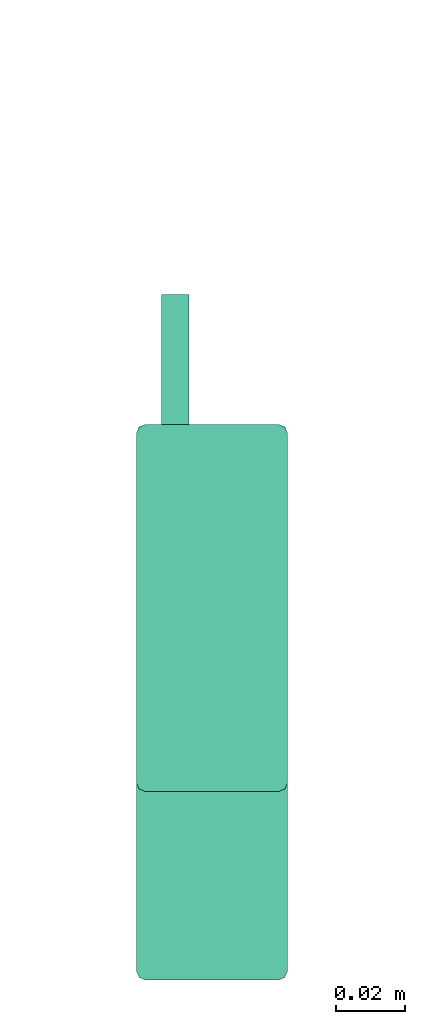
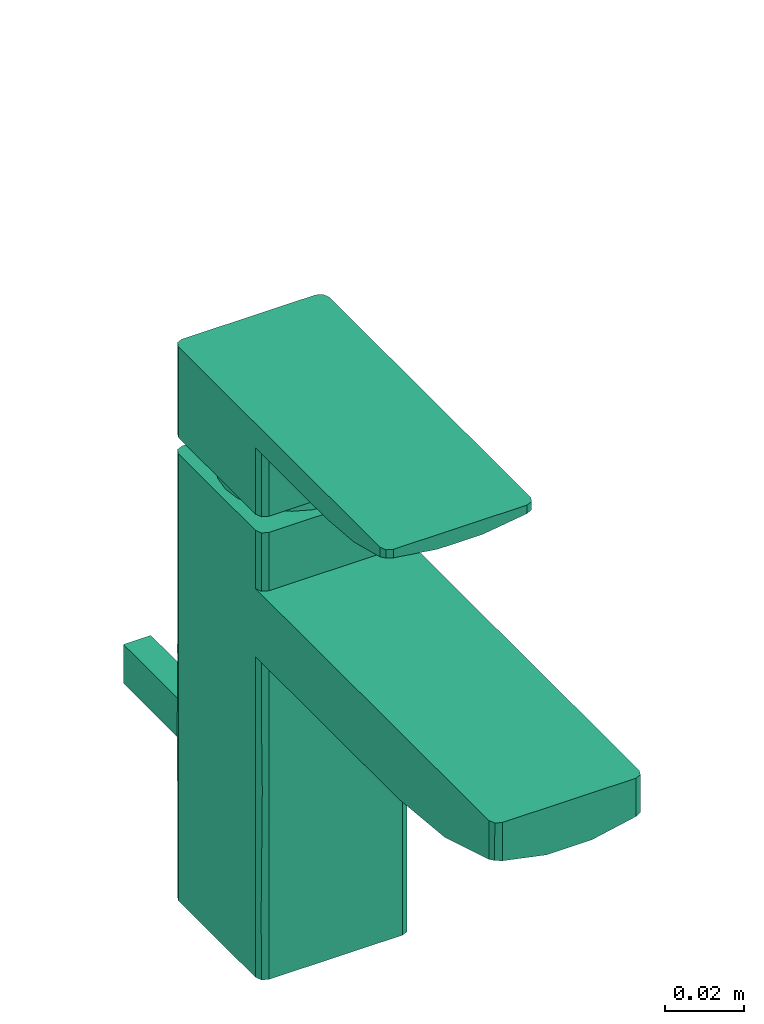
# One storey, part 2 of 2: 1 flow terminal.
"""IFC2X3 building model written with IfcOpenShell, lengths in millimetres."""

import ifcopenshell
import ifcopenshell.guid

model = None  # the IFC model being written
_history = None  # IfcOwnerHistory: only IFC2X3 demands one
_inside = {}  # id of a spatial element -> (the spatial element, [elements in it])
_under = {}  # id of a project, library or spatial element -> (it, [spatial elements below it])
_declared = {}  # id of a project -> (the project, [libraries it declares])
_typed = {}  # id of a type object -> (the type object, [elements of that type])
_made_of = {}  # id of a material, layer set ... -> (it, [elements and type objects made of it])


def new_model(schema):
    """Start an empty IFC model of exactly this schema.

    Asked for "IFC4X3", IfcOpenShell would pick the latest addendum, in which some entities
    have other attributes; the version numbers below select the first issue.
    IFC2X3 requires an IfcOwnerHistory on every rooted entity: one is made here for all.
    """
    global model, _history
    if schema == "IFC4X3":
        model = ifcopenshell.file(schema_version=(4, 3, 0, 0))
    else:
        model = ifcopenshell.file(schema=schema)
    _inside.clear()
    _under.clear()
    _declared.clear()
    _typed.clear()
    _made_of.clear()
    _history = None
    if model.schema == "IFC2X3":
        org = make("IfcOrganization", Name="unknown")
        user = make(
            "IfcPersonAndOrganization",
            ThePerson=make("IfcPerson", FamilyName="unknown"),
            TheOrganization=org,
        )
        app = make(
            "IfcApplication",
            ApplicationDeveloper=org,
            Version="unknown",
            ApplicationFullName="unknown",
            ApplicationIdentifier="unknown",
        )
        _history = make(
            "IfcOwnerHistory",
            OwningUser=user,
            OwningApplication=app,
            ChangeAction="ADDED",
            CreationDate=0,
        )
    return model


def make(cls, **values):
    """One entity of the class cls with the attributes given. An attribute that is None is left unset."""
    return model.create_entity(
        cls, **{name: value for name, value in values.items() if value is not None}
    )


def entity(cls, *values):
    """Any entity or typed value of the class cls, its attributes in the order of the schema. None: left unset."""
    e = model.create_entity(cls)
    for i, value in enumerate(values):
        if value is not None:
            e[i] = value
    return e


def rooted(cls, **values):
    """An entity with a GlobalId (a new one), such as an element, a storey or a relation."""
    return make(cls, GlobalId=ifcopenshell.guid.new(), OwnerHistory=_history, **values)


def si_unit(unit_type, name, prefix=None):
    """IfcSIUnit, for example si_unit("LENGTHUNIT", "METRE", prefix="MILLI")."""
    return make("IfcSIUnit", UnitType=unit_type, Prefix=prefix, Name=name)


def converted_unit(unit_type, name, factor, base, dimensions=None, offset=None):
    """IfcConversionBasedUnit, such as the inch: factor (a typed value) times the base unit."""
    return make(
        "IfcConversionBasedUnit"
        if offset is None
        else "IfcConversionBasedUnitWithOffset",
        ConversionOffset=offset,
        Dimensions=None
        if dimensions is None
        else entity("IfcDimensionalExponents", *dimensions),
        UnitType=unit_type,
        Name=name,
        ConversionFactor=make(
            "IfcMeasureWithUnit", ValueComponent=factor, UnitComponent=base
        ),
    )


def derived_unit(unit_type, elements):
    """IfcDerivedUnit: a product of units, each with its exponent."""
    return make(
        "IfcDerivedUnit",
        Elements=[
            make("IfcDerivedUnitElement", Unit=unit, Exponent=power)
            for unit, power in elements
        ],
        UnitType=unit_type,
    )


def assignment(units):
    """IfcUnitAssignment: the units of a project."""
    return None if units is None else make("IfcUnitAssignment", Units=units)


def point(xyz):
    """IfcCartesianPoint."""
    return None if xyz is None else make("IfcCartesianPoint", Coordinates=xyz)


def direction(xyz):
    """IfcDirection."""
    return None if xyz is None else make("IfcDirection", DirectionRatios=xyz)


def frame(location, z_axis=None, x_axis=None):
    """IfcAxis2Placement3D, a coordinate frame: its origin and axes. An axis left out is left unset."""
    return make(
        "IfcAxis2Placement3D",
        Location=point(location),
        Axis=direction(z_axis),
        RefDirection=direction(x_axis),
    )


def origin():
    """The frame at (0, 0, 0) with its axes left unset."""
    return frame((0.0, 0.0, 0.0))


def place(relative_to, where):
    """IfcLocalPlacement: puts the frame where relative to a parent placement (None: the world)."""
    return make(
        "IfcLocalPlacement", PlacementRelTo=relative_to, RelativePlacement=where
    )


def context(
    kind, dimensions, precision=None, world=None, true_north=None, identifier=None
):
    """IfcGeometricRepresentationContext, for example the 3D "Model" context."""
    return make(
        "IfcGeometricRepresentationContext",
        ContextIdentifier=identifier,
        ContextType=kind,
        CoordinateSpaceDimension=dimensions,
        Precision=precision,
        WorldCoordinateSystem=world,
        TrueNorth=true_north,
    )


def subcontext(parent, identifier, kind, view, scale=None):
    """IfcGeometricRepresentationSubContext, for example "Body" below "Model"."""
    return make(
        "IfcGeometricRepresentationSubContext",
        ContextIdentifier=identifier,
        ContextType=kind,
        ParentContext=parent,
        TargetScale=scale,
        TargetView=view,
    )


def project(units=None, contexts=None):
    """IfcProject with its units and contexts."""
    return rooted(
        "IfcProject",
        Name="project",
        RepresentationContexts=contexts,
        UnitsInContext=assignment(units),
    )


def spatial(cls, under=None, at=None, **own):
    """A site, building, storey or space (cls), placed at a placement, below another one or the project."""
    s = rooted(cls, ObjectPlacement=at, **own)
    if under is not None:
        _under.setdefault(under.id(), (under, []))[1].append(s)
    return s


def faces_of(points, faces, orient=None, outer=None):
    """IfcFace entities. A face is a list of loops; a loop is a list of indices into points, from 0.

    orient and outer hold one flag for each loop. By default every Orientation is true, the
    first loop of a face is its IfcFaceOuterBound and the others are IfcFaceBound.
    """
    made = []
    for i, loops in enumerate(faces):
        bounds = []
        for j, loop in enumerate(loops):
            is_outer = j == 0 if outer is None else outer[i][j]
            bounds.append(
                make(
                    "IfcFaceOuterBound" if is_outer else "IfcFaceBound",
                    Bound=make("IfcPolyLoop", Polygon=[points[k] for k in loop]),
                    Orientation=True if orient is None else orient[i][j],
                )
            )
        made.append(make("IfcFace", Bounds=bounds))
    return made


def faceted_brep(points, faces, orient=None, outer=None, voids=None):
    """IfcFacetedBrep: a solid bounded by flat faces; with voids (closed shells), ...WithVoids."""
    shared = [point(p) for p in points]
    hull = make("IfcClosedShell", CfsFaces=faces_of(shared, faces, orient, outer))
    if voids is None:
        return make("IfcFacetedBrep", Outer=hull)
    return make(
        "IfcFacetedBrepWithVoids",
        Outer=hull,
        Voids=[
            make(cls, CfsFaces=faces_of(shared, fs, o, b)) for cls, fs, o, b in voids
        ],
    )


def shape(context_of_items, identifier, shape_type, items):
    """IfcShapeRepresentation: the items that make up one representation, for example the "Body"."""
    return make(
        "IfcShapeRepresentation",
        ContextOfItems=context_of_items,
        RepresentationIdentifier=identifier,
        RepresentationType=shape_type,
        Items=items,
    )


def source(mapping_origin, context_of_items, identifier, shape_type, items):
    """IfcRepresentationMap: a shape defined once, which mapped items show again and again."""
    return make(
        "IfcRepresentationMap",
        MappingOrigin=mapping_origin,
        MappedRepresentation=shape(context_of_items, identifier, shape_type, items),
    )


def transform(
    local_origin,
    x_axis=None,
    y_axis=None,
    z_axis=None,
    scale=None,
    scale2=None,
    scale3=None,
    uniform=True,
):
    """IfcCartesianTransformationOperator3D, or its non-uniform kind. x_axis, y_axis, z_axis: its Axis1, 2, 3."""
    if uniform:
        return make(
            "IfcCartesianTransformationOperator3D",
            Axis1=direction(x_axis),
            Axis2=direction(y_axis),
            LocalOrigin=point(local_origin),
            Scale=scale,
            Axis3=direction(z_axis),
        )
    return make(
        "IfcCartesianTransformationOperator3DnonUniform",
        Axis1=direction(x_axis),
        Axis2=direction(y_axis),
        LocalOrigin=point(local_origin),
        Scale=scale,
        Axis3=direction(z_axis),
        Scale2=scale2,
        Scale3=scale3,
    )


def mapped(mapping_source, mapping_target):
    """IfcMappedItem: shows the shape of a source again, moved by a transform."""
    return make(
        "IfcMappedItem", MappingSource=mapping_source, MappingTarget=mapping_target
    )


def material(Name=None, Category=None):
    """IfcMaterial."""
    return make("IfcMaterial", Name=Name, Category=Category)


def made_of(thing, what):
    """Note that an element or type object is made of a material, layer set ...; save() writes the relation."""
    if what is not None:
        _made_of.setdefault(what.id(), (what, []))[1].append(thing)
    return thing


def type_object(cls, material=None, **own):
    """A type object (cls), such as IfcWallType, which elements share."""
    return made_of(rooted(cls, **own), material)


def type_shapes(of_type, sources):
    """Give a type object the sources (RepresentationMaps) that its elements show as mapped items."""
    of_type.RepresentationMaps = sources


def element(
    cls,
    number,
    at=None,
    inside=None,
    cuts=None,
    type_object=None,
    material=None,
    context=None,
    identifier="Body",
    shape_type=None,
    held_by="IfcProductDefinitionShape",
    body=None,
    shapes=None,
    **own,
):
    """One element of the class cls, such as IfcWall. Its Tag is "e" and its number.

    at: its placement. inside: the storey or other place that contains it. cuts: it is an
    opening in that element (IfcRelVoidsElement). A single representation is given by context,
    identifier, shape_type and body (its items); several are given by shapes. held_by: the class
    of the entity that holds the representations. save() writes the other relations.
    """
    e = rooted(cls, Tag="e%d" % number, ObjectPlacement=at, **own)
    if body is not None:
        shapes = [shape(context, identifier, shape_type, body)]
    if shapes is not None:
        e.Representation = make(held_by, Representations=shapes)
    if inside is not None:
        _inside.setdefault(inside.id(), (inside, []))[1].append(e)
    if cuts is not None:
        rooted(
            "IfcRelVoidsElement", RelatingBuildingElement=cuts, RelatedOpeningElement=e
        )
    if type_object is not None:
        _typed.setdefault(type_object.id(), (type_object, []))[1].append(e)
    return made_of(e, material)


def aggregate(whole, parts):
    """IfcRelAggregates: a whole, such as a stair, and the parts it consists of."""
    return rooted("IfcRelAggregates", RelatingObject=whole, RelatedObjects=parts)


def save(model, path):
    """Write the relations noted so far, then the file.

    IfcRelAggregates (storeys below a building ...), IfcRelContainedInSpatialStructure (elements
    in a storey), IfcRelDefinesByType, IfcRelAssociatesMaterial and IfcRelDeclares: one each for
    every whole, place, type object, material and project.
    """
    for whole, parts in _under.values():
        aggregate(whole, parts)
    for where, things in _inside.values():
        rooted(
            "IfcRelContainedInSpatialStructure",
            RelatedElements=things,
            RelatingStructure=where,
        )
    for kind, things in _typed.values():
        rooted("IfcRelDefinesByType", RelatedObjects=things, RelatingType=kind)
    for what, things in _made_of.values():
        rooted("IfcRelAssociatesMaterial", RelatedObjects=things, RelatingMaterial=what)
    for by, libraries in _declared.values():
        rooted("IfcRelDeclares", RelatingContext=by, RelatedDefinitions=libraries)
    model.write(path)


model = new_model("IFC2X3")

# Units and contexts
model_context = context("Model", 3, precision=0.01, world=origin(), true_north=direction((6.12303176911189e-17, 1.0)))
body_context = subcontext(model_context, "Body", "Model", "MODEL_VIEW")
ifc_project = project(units=[si_unit("LENGTHUNIT", "METRE", prefix="MILLI"), si_unit("AREAUNIT", "SQUARE_METRE"), si_unit("VOLUMEUNIT", "CUBIC_METRE"), converted_unit("PLANEANGLEUNIT", "DEGREE", entity("IfcRatioMeasure", 0.0174532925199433), si_unit("PLANEANGLEUNIT", "RADIAN"), dimensions=[0, 0, 0, 0, 0, 0, 0]), si_unit("MASSUNIT", "GRAM", prefix="KILO"), derived_unit("MASSDENSITYUNIT", [(si_unit("MASSUNIT", "GRAM", prefix="KILO"), 1), (si_unit("LENGTHUNIT", "METRE"), -3)]), derived_unit("MOMENTOFINERTIAUNIT", [(si_unit("LENGTHUNIT", "METRE"), 4)]), si_unit("TIMEUNIT", "SECOND"), si_unit("FREQUENCYUNIT", "HERTZ"), si_unit("THERMODYNAMICTEMPERATUREUNIT", "DEGREE_CELSIUS"), derived_unit("THERMALTRANSMITTANCEUNIT", [(si_unit("MASSUNIT", "GRAM", prefix="KILO"), 1), (si_unit("THERMODYNAMICTEMPERATUREUNIT", "KELVIN"), -1), (si_unit("TIMEUNIT", "SECOND"), -3)]), derived_unit("VOLUMETRICFLOWRATEUNIT", [(si_unit("LENGTHUNIT", "METRE"), 3), (si_unit("TIMEUNIT", "SECOND"), -1)]), si_unit("ELECTRICCURRENTUNIT", "AMPERE"), si_unit("ELECTRICVOLTAGEUNIT", "VOLT"), si_unit("POWERUNIT", "WATT"), si_unit("FORCEUNIT", "NEWTON", prefix="KILO"), si_unit("ILLUMINANCEUNIT", "LUX"), si_unit("LUMINOUSFLUXUNIT", "LUMEN"), si_unit("LUMINOUSINTENSITYUNIT", "CANDELA"), derived_unit("USERDEFINED", [(si_unit("MASSUNIT", "GRAM", prefix="KILO"), -1), (si_unit("LENGTHUNIT", "METRE"), -2), (si_unit("TIMEUNIT", "SECOND"), 3), (si_unit("LUMINOUSFLUXUNIT", "LUMEN"), 1)]), derived_unit("LINEARVELOCITYUNIT", [(si_unit("LENGTHUNIT", "METRE"), 1), (si_unit("TIMEUNIT", "SECOND"), -1)]), si_unit("PRESSUREUNIT", "PASCAL"), derived_unit("USERDEFINED", [(si_unit("LENGTHUNIT", "METRE"), -2), (si_unit("MASSUNIT", "GRAM", prefix="KILO"), 1), (si_unit("TIMEUNIT", "SECOND"), -2)]), derived_unit("LINEARFORCEUNIT", [(si_unit("MASSUNIT", "GRAM", prefix="KILO"), 1), (si_unit("LENGTHUNIT", "METRE"), 1), (si_unit("TIMEUNIT", "SECOND"), -2), (si_unit("LENGTHUNIT", "METRE"), -1)]), derived_unit("PLANARFORCEUNIT", [(si_unit("MASSUNIT", "GRAM", prefix="KILO"), 1), (si_unit("LENGTHUNIT", "METRE"), 1), (si_unit("TIMEUNIT", "SECOND"), -2), (si_unit("LENGTHUNIT", "METRE"), -2)])], contexts=[model_context])

# Site, building, storey
site_placement = place(None, origin())
site = spatial("IfcSite", under=ifc_project, at=site_placement, Name="Default", CompositionType="ELEMENT")
building_placement = place(site_placement, origin())
building = spatial("IfcBuilding", under=site, at=building_placement, CompositionType="ELEMENT")
storey_placement = place(building_placement, origin())
storey = spatial("IfcBuildingStorey", under=building, at=storey_placement, Name="Level 1", CompositionType="ELEMENT", Elevation=0.0)

# Flow terminal
ifc_material = material(Name="Gold")
distribution_element_type = type_object("IfcDistributionElementType", Name="FFAS1301-101GL0BF0_REVIT:Acacia E SH SL basin mixer", material=ifc_material)
shared_shape = source(origin(), body_context, "Body", "Brep", [
    faceted_brep([(-21.2677669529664, -21.2677669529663, 0.0), (-19.5, -22.0, 0.0), (-21.3250901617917, -21.2085215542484, 20.7032620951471), (-19.5, -22.0, 84.4217309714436), (-19.5, -22.0, 98.2239049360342), (-21.2484251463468, -21.2868994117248, 98.7558813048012), (-21.2496983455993, -21.2856527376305, 77.5206438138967), (-19.5, -22.0, 24.5559759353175), (-19.5, -22.0, 36.8339642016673), (-21.1055475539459, -21.4163029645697, 58.5102880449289), (-22.0, -19.5, 71.3956512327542), (-22.0, -19.5, 57.5934777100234), (-22.0, -19.5, 13.8021743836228), (-22.0, -19.5, 0.0), (-22.0, -19.5, 138.0), (-22.0, -19.5, 120.0), (-21.2677669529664, -21.2677669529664, 120.0), (-21.2677669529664, -21.2677669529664, 138.0), (-21.2007290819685, -21.3323538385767, 42.9729592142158), (-22.0, -19.5, 27.6043479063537), (-19.5, -22.0, 49.1119524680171), (-22.0, -19.5, 85.1978256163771), (-19.5, -22.0, 70.6195564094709), (-22.0, -19.5, 43.7913033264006), (-22.0, -19.5, 99.0), (21.2484251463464, -21.2868994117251, 98.7558813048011), (19.4999999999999, -22.0, 98.2239049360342), (21.3461670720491, -21.1857245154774, 78.2967388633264), (22.0, -19.5, 13.8021741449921), (22.0, -19.5, 27.6043482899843), (21.2677669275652, -21.2677669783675, 20.7032614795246), (19.4999999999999, -22.0, 76.7163009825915), (21.2677669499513, -21.2677669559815, 38.2956879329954), (22.0, -19.5, 71.3956517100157), (21.3361299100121, -21.1966516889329, 62.0904782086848), (19.4999999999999, -22.0, 55.2086959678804), (19.4999999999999, -22.0, 41.4065222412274), (19.4999999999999, -22.0, 27.6043474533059), (19.4999999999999, -22.0, 13.802173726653), (19.4999999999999, -22.0, 0.0), (21.2677669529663, -21.2677669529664, 0.0), (19.5, -22.0, 138.0), (19.4999999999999, -22.0, 120.0), (21.2677669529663, -21.2677669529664, 120.0), (21.2677669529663, -21.2677669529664, 138.0), (21.2677669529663, -21.2677669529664, 143.0), (19.4999999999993, -22.0, 162.921385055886), (19.5, -22.0, 143.0), (22.0, -19.5, 85.1978258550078), (22.0, -19.5, 0.0), (22.0, -19.5, 49.4999992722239), (22.0, -19.5, 120.0), (22.0, -19.5, 138.0), (22.0, -19.5, 99.0), (6.57743038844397, -22.0, 95.7626945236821), (-6.57743038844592, -22.0, 95.7626945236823), (-19.5, -22.0, 138.0), (-19.5, -22.0, 120.0), (0.0, -22.0, 160.962760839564), (-19.5000000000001, -22.0, 162.921385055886), (-19.5, -22.0, 143.0), (22.0, -56.0171086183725, 99.0), (22.0, -37.7585543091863, 99.0), (22.0, -28.6292316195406, 99.0), (22.0, -24.0646158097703, 99.0), (-22.0, -37.7585315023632, 99.0), (-22.0, -56.0171095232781, 99.0), (-22.0, -24.0646328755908, 99.0), (-7.44565170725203, -92.0, 95.8501010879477), (-22.0, -92.0, 99.0), (7.4456517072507, -92.0, 95.8501010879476), (-22.0, -28.6292657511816, 99.0), (22.0, -92.0, 99.0), (-6.47819386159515, -113.347478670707, 97.6132068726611), (-4.80963952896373, -111.411871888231, 97.1525244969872), (-2.55855296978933, -110.149892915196, 96.8385292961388), (-22.0, -115.185414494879, 101.257316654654), (0.0, -109.712505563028, 96.7271891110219), (-7.36528992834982, -118.275588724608, 98.672408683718), (-7.36649669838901, -115.732154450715, 98.1460443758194), (-19.5000000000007, -140.0, 108.15399342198), (2.55855296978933, -110.149892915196, 96.8385292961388), (22.0, -115.185414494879, 101.257316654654), (4.80963952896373, -111.411871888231, 97.1525244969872), (6.47819386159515, -113.347478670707, 97.6132068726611), (7.36649669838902, -115.732154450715, 98.1460443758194), (7.36528992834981, -118.275588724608, 98.672408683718), (-6.58448876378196, -140.0, 105.478393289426), (-6.47617672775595, -120.674281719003, 99.1296249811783), (-4.80602874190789, -122.635875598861, 99.4756849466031), (-2.55792381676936, -123.918316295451, 99.6885992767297), (0.0, -124.364630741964, 99.7602539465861), (-21.2806853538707, -139.254753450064, 108.424116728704), (-22.0, -137.500000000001, 107.94448328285), (6.60304870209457, -140.0, 105.480299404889), (2.55792381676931, -123.918316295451, 99.6885992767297), (4.80602874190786, -122.635875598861, 99.475684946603), (19.5, -140.0, 108.15399342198), (6.47617672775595, -120.674281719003, 99.1296249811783), (22.0, -137.5, 107.94448328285), (21.2816508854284, -139.253773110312, 108.424033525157), (-22.0, -137.5, 120.0), (-21.2677669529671, -139.267766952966, 120.0), (-19.5000000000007, -140.0, 120.0), (19.5, -140.0, 120.0), (21.2677669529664, -139.267766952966, 120.0), (22.0, -137.5, 120.0), (-22.0, 19.5, 138.0), (-22.0, 19.5, 124.19782548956), (-22.0, 19.5, 103.499999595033), (-22.0, 19.5, 86.2499997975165), (-22.0, 19.5, 69.0), (-22.0, 19.5, 51.7500002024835), (-22.0, 19.5, 34.5000004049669), (-22.0, 19.5, 13.8021745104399), (-22.0, 19.5, 0.0), (-22.0, -82.5, 171.0), (-22.0, 19.5, 171.0), (-22.0, 19.5, 163.462760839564), (-22.0, 19.5, 143.0), (-22.0, -19.5, 143.0), (-22.0, -19.5, 163.462760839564), (-22.0, -20.8505832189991, 163.462760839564), (-22.0, -22.2011664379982, 163.462760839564), (-22.0, -24.9023328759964, 163.462760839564), (-22.0, -30.3046657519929, 163.462760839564), (-22.0, -41.1093315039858, 163.462760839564), (-22.0, -55.7774207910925, 163.462760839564), (-22.0, -69.3306105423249, 164.607182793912), (-22.0, -82.5, 168.008040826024), (22.0, 19.5, 0.0), (22.0, 19.5, 13.8021736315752), (22.0, 19.5, 27.6043472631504), (22.0, 19.5, 41.3956514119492), (22.0, 19.5, 62.0934784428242), (22.0, 19.5, 82.7913028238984), (22.0, 19.5, 96.5934764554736), (22.0, 19.5, 110.39565273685), (22.0, 19.5, 124.197826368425), (22.0, 19.5, 138.0), (22.0, -82.5, 171.0), (22.0, -82.5, 168.008040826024), (22.0, -69.3306105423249, 164.607182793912), (22.0, -55.7774207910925, 163.462760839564), (22.0, -41.1093311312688, 163.462760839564), (22.0, -30.3046655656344, 163.462760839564), (22.0, -24.9023327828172, 163.462760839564), (22.0, -22.2011663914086, 163.462760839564), (22.0, -20.8505831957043, 163.462760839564), (22.0, -19.5, 163.462760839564), (22.0, -19.5, 143.0), (22.0, 19.5, 143.0), (22.0, 19.4999999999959, 163.462760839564), (22.0, 19.4999999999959, 171.0), (21.2677669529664, 21.2677669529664, 138.0), (19.5, 22.0, 138.0), (13.7885822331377, 13.7885822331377, 138.0), (9.75000000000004, 16.8874953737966, 138.0), (5.04697137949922, 18.8355536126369, 138.0), (0.0, 19.5000000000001, 138.0), (-19.5, 22.0, 138.0), (-5.04697137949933, 18.8355536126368, 138.0), (-9.7500000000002, 16.8874953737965, 138.0), (-13.7885822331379, 13.7885822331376, 138.0), (-21.2677669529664, 21.2677669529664, 138.0), (-16.8874953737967, 9.74999999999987, 138.0), (-18.8355536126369, 5.04697137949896, 138.0), (-19.5, 0.0, 138.0), (-18.8355536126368, -5.04697137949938, 138.0), (-16.8874953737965, -9.75000000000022, 138.0), (-13.7885822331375, -13.7885822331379, 138.0), (-9.7499999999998, -16.8874953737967, 138.0), (-5.04697137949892, -18.8355536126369, 138.0), (0.0, -19.5, 138.0), (5.04697137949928, -18.8355536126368, 138.0), (9.75000000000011, -16.8874953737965, 138.0), (13.7885822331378, -13.7885822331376, 138.0), (19.5000000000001, 0.0, 138.0), (18.8355536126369, -5.0469713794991, 138.0), (16.8874953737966, -9.74999999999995, 138.0), (16.8874953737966, 9.75000000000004, 138.0), (18.8355536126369, 5.04697137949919, 138.0), (-21.2677669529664, 21.2677669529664, 0.0), (-19.5, 22.0, 0.0), (19.5, 22.0, 0.0), (21.2677669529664, 21.2677669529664, 0.0), (-6.65799145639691, 22.0, 51.9931021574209), (19.5, 22.0, 124.197825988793), (19.5, 22.0, 103.499999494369), (19.5, 22.0, 86.2499982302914), (19.5, 22.0, 68.9999989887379), (19.5, 22.0, 51.7499997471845), (19.5, 22.0, 34.500000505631), (19.5, 22.0, 13.8021740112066), (-6.65799145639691, 22.0, 39.9931021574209), (-14.6579914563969, 22.0, 39.9931021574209), (-14.6579914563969, 22.0, 51.9931021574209), (-19.5, 22.0, 13.8021738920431), (-19.5, 22.0, 27.6043482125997), (-19.5, 22.0, 41.3956520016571), (-19.5, 22.0, 62.0934777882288), (-19.5, 22.0, 82.7913035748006), (-19.5, 22.0, 96.5934778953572), (-19.5, 22.0, 110.3956517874), (-19.5, 22.0, 124.197825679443), (-19.5, 22.0, 162.921385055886), (-19.5, 22.0, 171.0), (19.5, 22.0, 171.0), (19.5000000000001, 22.0, 162.921385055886), (19.5, 22.0, 143.0), (-19.5, 22.0, 143.0), (-21.2677669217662, 21.2677669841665, 20.7032627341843), (-21.3900692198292, 21.1363490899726, 43.125002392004), (-21.2677669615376, 21.2677669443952, 117.296739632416), (-21.3292588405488, 21.2040575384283, 62.9976828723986), (-21.2677669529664, 21.2677669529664, 171.0), (-21.3505236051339, 21.1809409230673, 77.6250015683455), (-21.145426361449, 21.382172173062, 102.117550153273), (-21.2677669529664, 21.2677669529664, 143.0), (-21.2677669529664, -21.2677669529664, 143.0), (21.2677669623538, 21.2677669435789, 117.296739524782), (21.2677669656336, 21.2677669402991, 20.7032615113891), (21.2677669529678, 21.2677669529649, 171.0), (21.1363491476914, 21.3900691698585, 43.1250005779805), (21.2040575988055, 21.3292587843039, 62.9976815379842), (21.1809409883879, 21.3505235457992, 77.6250005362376), (21.3821722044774, 21.1454263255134, 102.117549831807), (21.2677669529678, 21.2677669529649, 143.0), (0.0, -117.318751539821, 97.0301139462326), (0.0, -124.606495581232, 98.7126222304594), (-6.47738647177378, -120.962623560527, 97.871368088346), (-6.47738647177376, -113.674879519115, 96.1888598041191), (0.0, -110.031007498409, 95.3476056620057), (6.47738647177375, -120.962623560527, 97.871368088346), (6.47738647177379, -113.674879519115, 96.1888598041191), (12.318684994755, 12.3186849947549, 143.0), (15.0872462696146, 8.71062569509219, 143.0), (16.8276366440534, 4.5089516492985, 143.0), (17.4212513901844, 0.0, 143.0), (16.8276366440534, -4.50895164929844, 143.0), (15.0872462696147, -8.71062569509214, 143.0), (12.318684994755, -12.3186849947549, 143.0), (8.71062569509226, -15.0872462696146, 143.0), (4.50895164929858, -16.8276366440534, 143.0), (0.0, -17.4212513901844, 143.0), (-4.50895164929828, -16.8276366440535, 143.0), (-8.710625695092, -15.0872462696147, 143.0), (-12.3186849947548, -12.3186849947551, 143.0), (-15.0872462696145, -8.71062569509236, 143.0), (-16.8276366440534, -4.50895164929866, 143.0), (-17.4212513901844, 0.0, 143.0), (-16.8276366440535, 4.5089516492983, 143.0), (-15.0872462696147, 8.71062569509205, 143.0), (-12.3186849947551, 12.3186849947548, 143.0), (0.0, 17.4212513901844, 143.0), (-4.50895164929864, 16.8276366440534, 143.0), (-8.71062569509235, 15.0872462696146, 143.0), (8.71062569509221, 15.0872462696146, 143.0), (4.50895164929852, 16.8276366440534, 143.0), (-21.2586231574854, 21.2768636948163, 163.295069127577), (-21.2579393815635, -21.277540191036, 163.294933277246), (-21.4865459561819, -20.7299334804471, 163.346635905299), (21.2579393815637, -21.2775401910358, 163.294933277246), (21.4865459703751, -20.7299334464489, 163.346635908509), (21.2579344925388, 21.2775450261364, 163.29491635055), (19.5, -85.0, 171.0), (21.2677669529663, -84.2677669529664, 171.0), (-21.2677669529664, -84.2677669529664, 171.0), (-19.5, -85.0, 171.0), (-21.2840980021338, -84.2512836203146, 168.47121602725), (-19.5, -85.0, 168.350013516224), (-6.53688578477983, -85.0, 166.487997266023), (6.55003772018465, -85.0, 166.488936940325), (19.5, -85.0, 168.350013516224), (21.2849373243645, -84.2504281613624, 168.471094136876), (0.0068178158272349, -71.7520730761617, 162.50836299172), (0.0, -55.7774207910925, 160.962760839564), (-11.1949079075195, -72.7383063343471, 163.362206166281), (-12.9793431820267, -55.7774207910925, 162.437686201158), (12.9793430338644, -55.7774207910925, 162.437686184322), (-3.64332454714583, -18.3162287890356, 140.458647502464), (-7.12906184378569, 17.2110771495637, 140.570058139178), (-3.62527419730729, 18.2254836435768, 140.681192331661), (-17.2110773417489, 7.12906142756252, 140.570058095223), (-18.4697609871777, 2.4315901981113, 140.570057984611), (-7.12906182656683, -17.211077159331, 140.570058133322), (-14.7794872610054, -11.3406990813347, 140.570058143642), (-14.7794872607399, 11.3406990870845, 140.57005813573), (-11.3406995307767, 14.779486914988, 140.570058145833), (-17.2110773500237, -7.12906138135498, 140.570058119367), (-18.4697609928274, -2.43159026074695, 140.570057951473), (-11.3406995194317, -14.7794869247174, 140.570058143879), (0.0, -18.6291358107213, 140.570058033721), (0.0, 18.6291358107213, 140.570058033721), (3.64332453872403, 18.3162287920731, 140.458647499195), (11.3406995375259, -14.7794869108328, 140.57005814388), (7.12906186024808, -17.2110771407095, 140.570058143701), (14.7794872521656, -11.3406991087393, 140.570058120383), (7.12906180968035, 17.2110771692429, 140.57005812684), (14.7794872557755, 11.3406990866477, 140.570058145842), (18.469760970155, -2.43159020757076, 140.570058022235), (17.2110773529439, 7.12906135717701, 140.570058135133), (18.4697609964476, 2.43159031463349, 140.570057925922), (11.3406995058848, 14.7794869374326, 140.570058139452), (17.2110773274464, -7.12906149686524, 140.570058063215), (3.62527420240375, -18.2254836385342, 140.681192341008), (-14.6579914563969, 60.0, 39.9931021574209), (-14.6579914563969, 60.0, 51.9931021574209), (-6.65799145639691, 60.0, 51.9931021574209), (-6.65799145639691, 60.0, 39.9931021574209)], [[[0, 1, 2]], [[3, 4, 5]], [[5, 6, 3]], [[2, 1, 7, 8]], [[9, 10, 11]], [[12, 13, 0]], [[14, 15, 16, 17]], [[10, 9, 6]], [[2, 18, 19]], [[8, 20, 18]], [[5, 21, 6]], [[22, 3, 6]], [[19, 12, 2]], [[18, 9, 11]], [[0, 2, 12]], [[8, 18, 2]], [[18, 11, 23, 19]], [[18, 20, 9]], [[20, 22, 9]], [[6, 9, 22]], [[21, 5, 24]], [[21, 10, 6]], [[25, 26, 27]], [[28, 29, 30]], [[27, 26, 31]], [[30, 29, 32]], [[33, 27, 34]], [[32, 35, 36, 37]], [[38, 39, 40]], [[41, 42, 43, 44]], [[45, 46, 47]], [[25, 27, 48]], [[30, 38, 40]], [[37, 30, 32]], [[31, 34, 27]], [[40, 49, 28]], [[29, 50, 32]], [[43, 51, 52, 44]], [[40, 28, 30]], [[32, 50, 34]], [[48, 27, 33]], [[48, 53, 25]], [[34, 31, 35]], [[32, 34, 35]], [[50, 33, 34]], [[30, 37, 38]], [[54, 55, 4, 3, 22, 20, 8, 7, 1, 39, 38, 37, 36, 35, 31, 26]], [[41, 56, 57, 42]], [[58, 59, 60, 47, 46]], [[61, 54, 62]], [[63, 62, 26, 64]], [[65, 55, 66]], [[24, 5, 67]], [[68, 69, 66]], [[66, 55, 68]], [[68, 55, 54, 70]], [[25, 53, 64]], [[4, 67, 5]], [[65, 71, 67, 4]], [[72, 70, 61]], [[65, 4, 55]], [[61, 70, 54]], [[54, 26, 62]], [[26, 25, 64]], [[73, 68, 74]], [[68, 75, 74]], [[76, 69, 68]], [[77, 75, 68]], [[78, 76, 79]], [[68, 73, 79]], [[78, 80, 76]], [[76, 68, 79]], [[70, 81, 77]], [[70, 72, 82]], [[83, 81, 70]], [[68, 70, 77]], [[84, 70, 85]], [[85, 70, 82]], [[85, 82, 86]], [[83, 70, 84]], [[87, 88, 89]], [[87, 90, 91]], [[90, 87, 89]], [[80, 92, 93]], [[80, 88, 87]], [[80, 78, 88]], [[80, 93, 76]], [[94, 87, 91]], [[94, 95, 96]], [[97, 98, 86]], [[98, 94, 96]], [[97, 82, 99]], [[97, 99, 100]], [[94, 98, 97]], [[94, 91, 95]], [[86, 82, 97]], [[16, 15, 101, 102, 103, 104, 105, 106, 51, 43, 42, 57]], [[14, 107, 108, 109, 110, 111, 112, 113, 114, 115, 13, 12, 19, 23, 11, 10, 21, 24, 67, 71, 65, 66, 69, 76, 93, 101, 15]], [[116, 117, 118, 119, 120, 121, 122, 123, 124, 125, 126, 127, 128, 129]], [[101, 93, 92]], [[101, 92, 102]], [[92, 103, 102]], [[103, 92, 80]], [[104, 103, 80, 87, 94, 97]], [[105, 104, 100]], [[100, 104, 97]], [[100, 99, 106]], [[100, 106, 105]], [[51, 106, 99, 82, 72, 61, 62, 63, 64, 53, 48, 33, 50, 29, 28, 49, 130, 131, 132, 133, 134, 135, 136, 137, 138, 139, 52]], [[140, 141, 142, 143, 144, 145, 146, 147, 148, 149, 150, 151, 152, 153]], [[154, 155, 139]], [[139, 155, 156]], [[157, 156, 155]], [[158, 157, 155]], [[159, 158, 155]], [[155, 160, 159]], [[161, 159, 160]], [[162, 161, 160]], [[162, 160, 163]], [[107, 163, 160]], [[160, 164, 107]], [[165, 163, 107]], [[166, 165, 107]], [[166, 107, 167]], [[167, 107, 14]], [[168, 167, 14]], [[169, 168, 14]], [[14, 170, 169]], [[56, 170, 14]], [[56, 14, 17]], [[171, 170, 56]], [[171, 56, 172]], [[173, 172, 56]], [[173, 56, 41]], [[41, 174, 173]], [[175, 174, 41]], [[176, 175, 41]], [[41, 52, 176]], [[41, 44, 52]], [[177, 52, 139]], [[52, 177, 178]], [[178, 179, 52]], [[179, 176, 52]], [[156, 180, 139]], [[180, 181, 139]], [[139, 181, 177]], [[115, 182, 183, 184, 185, 130, 49, 40, 39, 1, 0, 13]], [[155, 186, 160]], [[186, 155, 187]], [[186, 187, 188]], [[186, 188, 189]], [[186, 189, 190]], [[186, 190, 191]], [[186, 191, 192]], [[186, 192, 193]], [[186, 193, 184]], [[184, 194, 186]], [[194, 184, 183]], [[183, 195, 194]], [[195, 183, 196]], [[196, 183, 197]], [[196, 197, 198]], [[196, 198, 199]], [[196, 199, 200]], [[196, 200, 201]], [[196, 201, 202]], [[196, 202, 203]], [[196, 203, 204]], [[196, 204, 160]], [[196, 160, 186]], [[205, 206, 207, 208, 209, 210]], [[198, 211, 212]], [[212, 211, 113]], [[204, 213, 164]], [[200, 212, 214]], [[108, 107, 164]], [[182, 115, 114]], [[215, 118, 117]], [[200, 214, 216]], [[216, 217, 201]], [[182, 211, 197]], [[204, 203, 213]], [[109, 213, 217]], [[211, 182, 114]], [[213, 203, 217]], [[164, 160, 204]], [[197, 183, 182]], [[218, 205, 210]], [[109, 108, 213]], [[164, 213, 108]], [[197, 211, 198]], [[113, 211, 114]], [[217, 203, 202, 201]], [[217, 216, 110]], [[110, 216, 111]], [[110, 109, 217]], [[214, 111, 216]], [[216, 201, 200]], [[212, 113, 112]], [[212, 200, 199, 198]], [[112, 111, 214]], [[214, 212, 112]], [[16, 57, 56, 17]], [[59, 219, 60]], [[138, 137, 220]], [[132, 131, 185, 221]], [[131, 130, 185]], [[154, 139, 138]], [[153, 152, 222]], [[134, 223, 224]], [[134, 224, 225]], [[225, 226, 135]], [[187, 155, 154]], [[185, 184, 193]], [[208, 227, 209]], [[138, 220, 154]], [[188, 220, 226]], [[221, 223, 132]], [[220, 137, 226]], [[188, 187, 220]], [[221, 185, 193, 192]], [[154, 220, 187]], [[221, 192, 223]], [[226, 137, 136, 135]], [[226, 225, 189]], [[189, 225, 190]], [[189, 188, 226]], [[224, 190, 225]], [[225, 135, 134]], [[223, 192, 191]], [[223, 134, 133, 132]], [[191, 190, 224]], [[224, 223, 191]], [[228, 229, 230]], [[230, 231, 228]], [[231, 232, 228]], [[228, 233, 229]], [[232, 234, 228]], [[233, 228, 234]], [[75, 77, 232]], [[75, 232, 231]], [[75, 231, 74]], [[73, 74, 231]], [[79, 73, 231]], [[231, 78, 79]], [[90, 230, 229]], [[90, 229, 91]], [[78, 230, 88]], [[90, 89, 230]], [[230, 89, 88]], [[230, 78, 231]], [[95, 91, 229]], [[95, 229, 233]], [[96, 95, 233]], [[98, 96, 233]], [[233, 86, 98]], [[233, 234, 86]], [[81, 234, 232]], [[81, 232, 77]], [[85, 234, 84]], [[84, 234, 83]], [[234, 81, 83]], [[234, 85, 86]], [[227, 151, 209]], [[209, 151, 235]], [[236, 235, 151]], [[237, 236, 151]], [[238, 237, 151]], [[151, 150, 238]], [[239, 238, 150]], [[240, 239, 150]], [[240, 150, 241]], [[47, 241, 150]], [[150, 45, 47]], [[242, 241, 47]], [[243, 242, 47]], [[243, 47, 244]], [[244, 47, 60]], [[245, 244, 60]], [[246, 245, 60]], [[60, 247, 246]], [[120, 247, 60]], [[120, 60, 219]], [[248, 247, 120]], [[248, 120, 249]], [[250, 249, 120]], [[250, 120, 119]], [[119, 251, 250]], [[252, 251, 119]], [[253, 252, 119]], [[119, 210, 253]], [[119, 218, 210]], [[254, 210, 209]], [[210, 254, 255]], [[255, 256, 210]], [[256, 253, 210]], [[235, 257, 209]], [[257, 258, 209]], [[209, 258, 254]], [[259, 205, 218]], [[119, 118, 259]], [[119, 259, 218]], [[120, 260, 261, 121]], [[260, 120, 219]], [[219, 59, 260]], [[262, 46, 45]], [[150, 149, 263, 262]], [[150, 262, 45]], [[264, 152, 151]], [[264, 151, 227]], [[227, 208, 264]], [[265, 266, 140, 153, 222, 207, 206, 215, 117, 116, 267, 268]], [[206, 205, 259]], [[206, 259, 215]], [[118, 215, 259]], [[116, 129, 269]], [[116, 269, 267]], [[269, 268, 267]], [[268, 269, 270]], [[265, 268, 270, 271, 272, 273]], [[266, 265, 274]], [[274, 265, 273]], [[274, 141, 140]], [[274, 140, 266]], [[222, 152, 264]], [[264, 208, 207]], [[264, 207, 222]], [[142, 273, 272]], [[275, 272, 271]], [[142, 272, 275]], [[129, 270, 269]], [[276, 277, 278]], [[271, 270, 277]], [[127, 278, 128]], [[273, 141, 274]], [[276, 279, 275]], [[279, 143, 142]], [[142, 275, 279]], [[129, 277, 270]], [[277, 128, 278]], [[277, 275, 271]], [[129, 128, 277]], [[142, 141, 273]], [[276, 275, 277]], [[58, 46, 145]], [[144, 143, 279, 276, 58, 145]], [[125, 59, 58]], [[262, 147, 46]], [[125, 124, 123, 59]], [[263, 149, 148, 147, 262]], [[126, 125, 58, 276, 278, 127]], [[261, 260, 123, 122, 121]], [[146, 145, 46, 147]], [[59, 123, 260]], [[244, 245, 280]], [[281, 255, 282]], [[283, 284, 251]], [[245, 285, 280]], [[247, 248, 286]], [[287, 288, 163]], [[285, 245, 246]], [[289, 290, 168]], [[247, 291, 246]], [[287, 253, 288]], [[289, 248, 249]], [[280, 173, 292]], [[172, 280, 285]], [[250, 290, 249]], [[283, 287, 165]], [[291, 285, 246]], [[167, 168, 290]], [[286, 291, 247]], [[291, 171, 285]], [[290, 289, 249]], [[286, 289, 169]], [[170, 291, 286]], [[289, 286, 248]], [[284, 290, 250]], [[167, 284, 166]], [[282, 293, 159]], [[252, 283, 251]], [[287, 252, 253]], [[284, 283, 166]], [[254, 293, 282]], [[284, 167, 290]], [[288, 256, 281]], [[288, 253, 256]], [[254, 282, 255]], [[281, 256, 255]], [[172, 285, 171]], [[283, 165, 166]], [[287, 163, 165]], [[171, 291, 170]], [[161, 162, 281]], [[163, 288, 162]], [[283, 252, 287]], [[161, 282, 159]], [[173, 280, 172]], [[169, 289, 168]], [[161, 281, 282]], [[170, 286, 169]], [[280, 292, 244]], [[284, 250, 251]], [[288, 281, 162]], [[254, 258, 294]], [[295, 242, 296]], [[297, 241, 295]], [[258, 298, 294]], [[299, 235, 236]], [[177, 300, 178]], [[298, 258, 257]], [[301, 302, 181]], [[257, 235, 303]], [[295, 296, 175]], [[301, 236, 237]], [[294, 159, 293]], [[158, 294, 298]], [[304, 240, 297]], [[304, 297, 179]], [[158, 298, 157]], [[177, 181, 302]], [[157, 303, 156]], [[303, 157, 298]], [[180, 301, 181]], [[299, 301, 180]], [[156, 303, 299]], [[156, 299, 180]], [[300, 302, 238]], [[300, 238, 239]], [[305, 292, 173]], [[240, 304, 239]], [[297, 240, 241]], [[300, 304, 178]], [[296, 242, 243]], [[304, 300, 239]], [[296, 243, 305]], [[295, 241, 242]], [[244, 305, 243]], [[305, 244, 292]], [[303, 298, 257]], [[304, 179, 178]], [[297, 176, 179]], [[299, 303, 235]], [[174, 175, 296]], [[176, 295, 175]], [[238, 302, 237]], [[174, 305, 173]], [[159, 294, 158]], [[302, 301, 237]], [[174, 296, 305]], [[301, 299, 236]], [[294, 293, 254]], [[177, 302, 300]], [[297, 295, 176]], [[306, 307, 308, 309]], [[196, 186, 308, 307]], [[195, 196, 307, 306]], [[194, 195, 306, 309]], [[186, 194, 309, 308]]]),
])
type_shapes(distribution_element_type, [shared_shape])
flow_terminal_placement = place(storey_placement, frame((2192.20706844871, -8365.16617023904, 0.0)))
element("IfcFlowTerminal", 1, at=flow_terminal_placement, inside=storey, type_object=distribution_element_type, material=ifc_material, Name="FFAS1301-101GL0BF0_REVIT:Acacia E SH SL basin mixer", ObjectType="FFAS1301-101GL0BF0_REVIT:Acacia E SH SL basin mixer", context=body_context, shape_type="MappedRepresentation", body=[
    mapped(shared_shape, transform((0.0, 0.0, 0.0), scale=1.0)),
])

save(model, "model.ifc")
